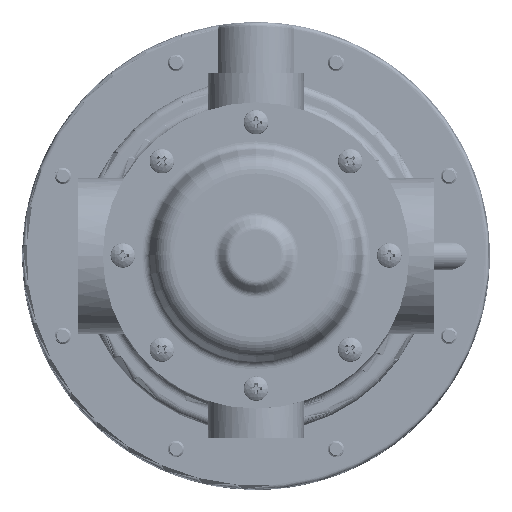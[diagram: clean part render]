
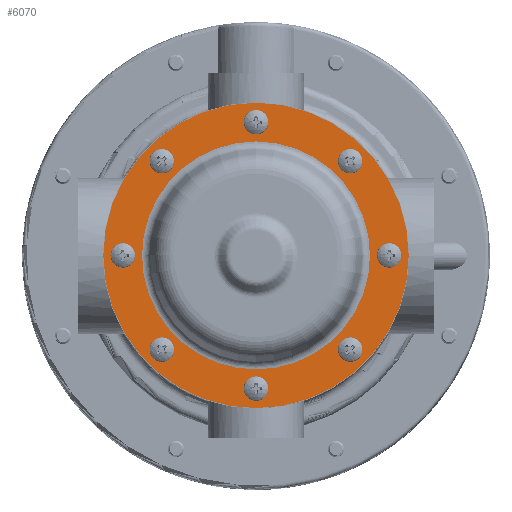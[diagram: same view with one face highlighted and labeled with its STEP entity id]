
A CAD part, top view. The second image highlights one B-rep face of the part: STEP entity #6070.
In plain terms, the highlighted planar face has unit normal (0, 0, 1).
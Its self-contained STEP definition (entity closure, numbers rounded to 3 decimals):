
#826=PLANE('',#6741);
#1250=FACE_BOUND('',#2117,.T.);
#1251=FACE_BOUND('',#2118,.T.);
#1252=FACE_BOUND('',#2119,.T.);
#1253=FACE_BOUND('',#2120,.T.);
#1254=FACE_BOUND('',#2121,.T.);
#1255=FACE_BOUND('',#2122,.T.);
#1256=FACE_BOUND('',#2123,.T.);
#1257=FACE_BOUND('',#2124,.T.);
#1258=FACE_BOUND('',#2125,.T.);
#1658=FACE_OUTER_BOUND('',#2116,.T.);
#2116=EDGE_LOOP('',(#5660));
#2117=EDGE_LOOP('',(#5661));
#2118=EDGE_LOOP('',(#5662));
#2119=EDGE_LOOP('',(#5663));
#2120=EDGE_LOOP('',(#5664));
#2121=EDGE_LOOP('',(#5665));
#2122=EDGE_LOOP('',(#5666));
#2123=EDGE_LOOP('',(#5667));
#2124=EDGE_LOOP('',(#5668));
#2125=EDGE_LOOP('',(#5669));
#2249=CIRCLE('',#6244,2.);
#2251=CIRCLE('',#6248,2.);
#2253=CIRCLE('',#6252,2.);
#2255=CIRCLE('',#6256,2.);
#2257=CIRCLE('',#6260,2.);
#2259=CIRCLE('',#6264,2.);
#2261=CIRCLE('',#6268,2.);
#2263=CIRCLE('',#6272,2.);
#2509=CIRCLE('',#6737,27.812);
#2512=CIRCLE('',#6742,37.25);
#2705=VERTEX_POINT('',#42884);
#2707=VERTEX_POINT('',#42890);
#2709=VERTEX_POINT('',#42896);
#2711=VERTEX_POINT('',#42902);
#2713=VERTEX_POINT('',#42908);
#2715=VERTEX_POINT('',#42914);
#2717=VERTEX_POINT('',#42920);
#2719=VERTEX_POINT('',#42926);
#3089=VERTEX_POINT('',#49408);
#3092=VERTEX_POINT('',#49416);
#3377=EDGE_CURVE('',#2705,#2705,#2249,.T.);
#3379=EDGE_CURVE('',#2707,#2707,#2251,.T.);
#3381=EDGE_CURVE('',#2709,#2709,#2253,.T.);
#3383=EDGE_CURVE('',#2711,#2711,#2255,.T.);
#3385=EDGE_CURVE('',#2713,#2713,#2257,.T.);
#3387=EDGE_CURVE('',#2715,#2715,#2259,.T.);
#3389=EDGE_CURVE('',#2717,#2717,#2261,.T.);
#3391=EDGE_CURVE('',#2719,#2719,#2263,.T.);
#3952=EDGE_CURVE('',#3089,#3089,#2509,.T.);
#3955=EDGE_CURVE('',#3092,#3092,#2512,.T.);
#5660=ORIENTED_EDGE('',*,*,#3955,.T.);
#5661=ORIENTED_EDGE('',*,*,#3377,.T.);
#5662=ORIENTED_EDGE('',*,*,#3379,.T.);
#5663=ORIENTED_EDGE('',*,*,#3381,.T.);
#5664=ORIENTED_EDGE('',*,*,#3383,.T.);
#5665=ORIENTED_EDGE('',*,*,#3385,.T.);
#5666=ORIENTED_EDGE('',*,*,#3387,.T.);
#5667=ORIENTED_EDGE('',*,*,#3389,.T.);
#5668=ORIENTED_EDGE('',*,*,#3391,.T.);
#5669=ORIENTED_EDGE('',*,*,#3952,.F.);
#6070=ADVANCED_FACE('',(#1658,#1250,#1251,#1252,#1253,#1254,#1255,#1256,
#1257,#1258),#826,.T.);
#6244=AXIS2_PLACEMENT_3D('',#42885,#7151,#7152);
#6248=AXIS2_PLACEMENT_3D('',#42891,#7159,#7160);
#6252=AXIS2_PLACEMENT_3D('',#42897,#7167,#7168);
#6256=AXIS2_PLACEMENT_3D('',#42903,#7175,#7176);
#6260=AXIS2_PLACEMENT_3D('',#42909,#7183,#7184);
#6264=AXIS2_PLACEMENT_3D('',#42915,#7191,#7192);
#6268=AXIS2_PLACEMENT_3D('',#42921,#7199,#7200);
#6272=AXIS2_PLACEMENT_3D('',#42927,#7207,#7208);
#6737=AXIS2_PLACEMENT_3D('',#49409,#8341,#8342);
#6741=AXIS2_PLACEMENT_3D('',#49415,#8349,#8350);
#6742=AXIS2_PLACEMENT_3D('',#49417,#8351,#8352);
#7151=DIRECTION('center_axis',(0.,0.,-1.));
#7152=DIRECTION('ref_axis',(-0.707,-0.707,0.));
#7159=DIRECTION('center_axis',(0.,0.,-1.));
#7160=DIRECTION('ref_axis',(0.,-1.,0.));
#7167=DIRECTION('center_axis',(0.,0.,-1.));
#7168=DIRECTION('ref_axis',(0.707,-0.707,0.));
#7175=DIRECTION('center_axis',(0.,0.,-1.));
#7176=DIRECTION('ref_axis',(1.,0.,0.));
#7183=DIRECTION('center_axis',(0.,0.,-1.));
#7184=DIRECTION('ref_axis',(0.707,0.707,0.));
#7191=DIRECTION('center_axis',(0.,0.,-1.));
#7192=DIRECTION('ref_axis',(0.,1.,0.));
#7199=DIRECTION('center_axis',(0.,0.,-1.));
#7200=DIRECTION('ref_axis',(-0.707,0.707,0.));
#7207=DIRECTION('center_axis',(0.,0.,-1.));
#7208=DIRECTION('ref_axis',(-1.,0.,0.));
#8341=DIRECTION('center_axis',(0.,0.,1.));
#8342=DIRECTION('ref_axis',(1.,0.,0.));
#8349=DIRECTION('center_axis',(0.,0.,1.));
#8350=DIRECTION('ref_axis',(1.,0.,0.));
#8351=DIRECTION('center_axis',(0.,0.,1.));
#8352=DIRECTION('ref_axis',(1.,0.,0.));
#42884=CARTESIAN_POINT('',(24.395,24.395,-8.));
#42885=CARTESIAN_POINT('Origin',(22.981,22.981,-8.));
#42890=CARTESIAN_POINT('',(0.,34.5,-8.));
#42891=CARTESIAN_POINT('Origin',(0.,32.5,-8.));
#42896=CARTESIAN_POINT('',(-24.395,24.395,-8.));
#42897=CARTESIAN_POINT('Origin',(-22.981,22.981,-8.));
#42902=CARTESIAN_POINT('',(-34.5,0.,-8.));
#42903=CARTESIAN_POINT('Origin',(-32.5,0.,-8.));
#42908=CARTESIAN_POINT('',(-24.395,-24.395,-8.));
#42909=CARTESIAN_POINT('Origin',(-22.981,-22.981,-8.));
#42914=CARTESIAN_POINT('',(0.,-34.5,-8.));
#42915=CARTESIAN_POINT('Origin',(0.,-32.5,-8.));
#42920=CARTESIAN_POINT('',(24.395,-24.395,-8.));
#42921=CARTESIAN_POINT('Origin',(22.981,-22.981,-8.));
#42926=CARTESIAN_POINT('',(34.5,0.,-8.));
#42927=CARTESIAN_POINT('Origin',(32.5,0.,-8.));
#49408=CARTESIAN_POINT('',(-27.812,0.,-8.));
#49409=CARTESIAN_POINT('Origin',(0.,0.,-8.));
#49415=CARTESIAN_POINT('Origin',(0.,0.,-8.));
#49416=CARTESIAN_POINT('',(-37.25,0.,-8.));
#49417=CARTESIAN_POINT('Origin',(0.,0.,-8.));
